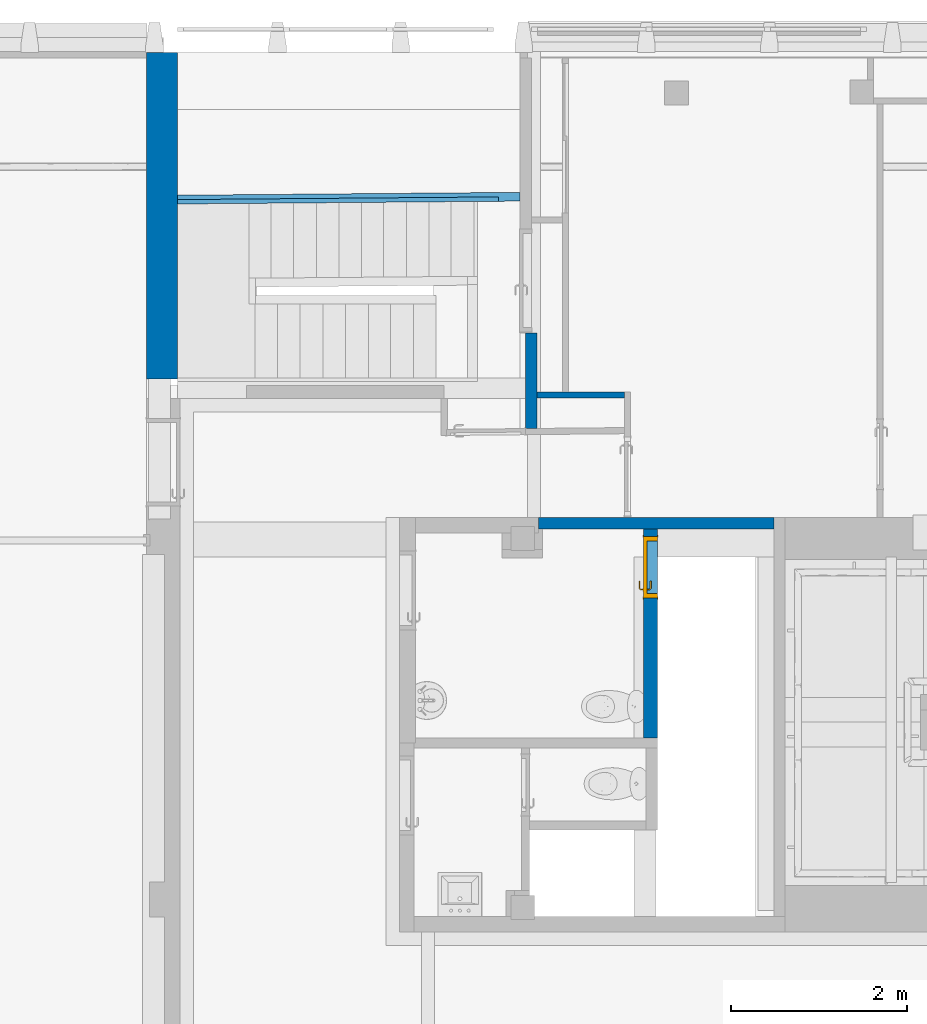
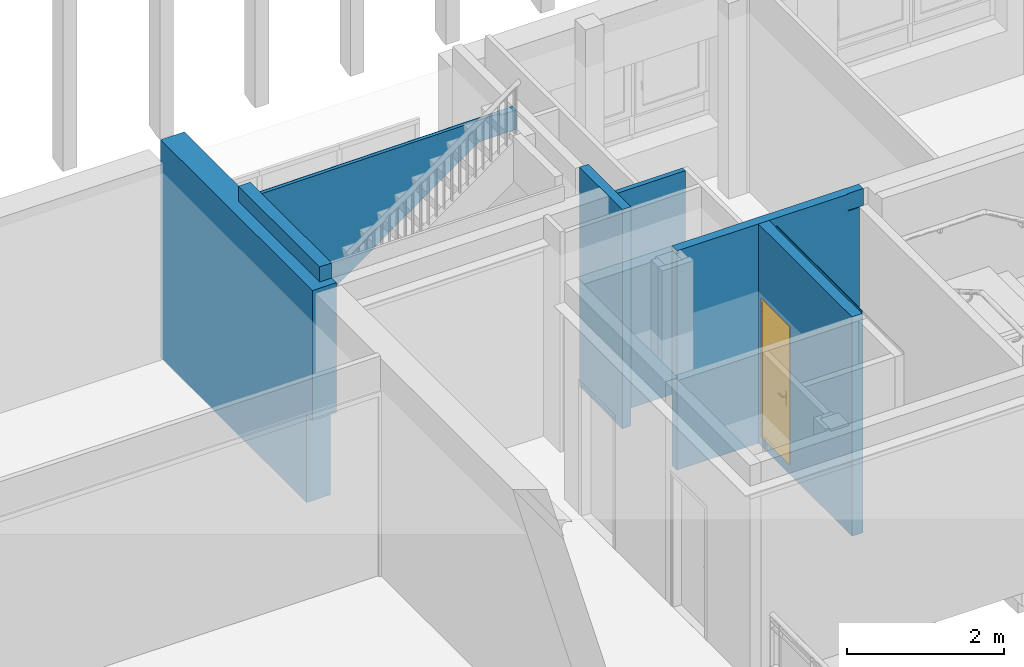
# One storey, part 40 of 65: 6 walls, 1 door, 1 opening.
"""IFC4 building model written with IfcOpenShell, lengths in metres."""

from ifc_helpers import new_model, entity, si_unit, converted_unit, derived_unit, direction, frame, origin, place, context, subcontext, project, spatial, indexed_curve, outline, extrude, polygons, source, transform, mapped, material, material_list, layer, layer_set, constituent, constituent_set, type_object, type_shapes, element, fill, save


model = new_model("IFC4")

# Units and contexts
model_context = context("Model", 3, precision=1e-05, world=origin(), true_north=direction((6.12303176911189e-17, 1.0)))
body_context = subcontext(model_context, "Body", "Model", "MODEL_VIEW")
ifc_project = project(units=[si_unit("LENGTHUNIT", "METRE"), si_unit("AREAUNIT", "SQUARE_METRE"), si_unit("VOLUMEUNIT", "CUBIC_METRE"), converted_unit("PLANEANGLEUNIT", "DEGREE", entity("IfcRatioMeasure", 0.0174532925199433), si_unit("PLANEANGLEUNIT", "RADIAN"), dimensions=[0, 0, 0, 0, 0, 0, 0]), si_unit("MASSUNIT", "GRAM", prefix="KILO"), derived_unit("MASSDENSITYUNIT", [(si_unit("MASSUNIT", "GRAM", prefix="KILO"), 1), (si_unit("LENGTHUNIT", "METRE"), -3)]), derived_unit("MOMENTOFINERTIAUNIT", [(si_unit("LENGTHUNIT", "METRE"), 4)]), si_unit("TIMEUNIT", "SECOND"), si_unit("FREQUENCYUNIT", "HERTZ"), si_unit("THERMODYNAMICTEMPERATUREUNIT", "DEGREE_CELSIUS"), derived_unit("THERMALTRANSMITTANCEUNIT", [(si_unit("MASSUNIT", "GRAM", prefix="KILO"), 1), (si_unit("THERMODYNAMICTEMPERATUREUNIT", "KELVIN"), -1), (si_unit("TIMEUNIT", "SECOND"), -3)]), derived_unit("VOLUMETRICFLOWRATEUNIT", [(si_unit("LENGTHUNIT", "METRE"), 3), (si_unit("TIMEUNIT", "SECOND"), -1)]), si_unit("ELECTRICCURRENTUNIT", "AMPERE"), si_unit("ELECTRICVOLTAGEUNIT", "VOLT"), si_unit("POWERUNIT", "WATT"), si_unit("FORCEUNIT", "NEWTON", prefix="KILO"), si_unit("ILLUMINANCEUNIT", "LUX"), si_unit("LUMINOUSFLUXUNIT", "LUMEN"), si_unit("LUMINOUSINTENSITYUNIT", "CANDELA"), derived_unit("USERDEFINED", [(si_unit("MASSUNIT", "GRAM", prefix="KILO"), -1), (si_unit("LENGTHUNIT", "METRE"), -2), (si_unit("TIMEUNIT", "SECOND"), 3), (si_unit("LUMINOUSFLUXUNIT", "LUMEN"), 1)]), derived_unit("LINEARVELOCITYUNIT", [(si_unit("LENGTHUNIT", "METRE"), 1), (si_unit("TIMEUNIT", "SECOND"), -1)]), si_unit("PRESSUREUNIT", "PASCAL"), derived_unit("USERDEFINED", [(si_unit("LENGTHUNIT", "METRE"), -2), (si_unit("MASSUNIT", "GRAM", prefix="KILO"), 1), (si_unit("TIMEUNIT", "SECOND"), -2)]), derived_unit("LINEARFORCEUNIT", [(si_unit("MASSUNIT", "GRAM", prefix="KILO"), 1), (si_unit("LENGTHUNIT", "METRE"), 1), (si_unit("TIMEUNIT", "SECOND"), -2), (si_unit("LENGTHUNIT", "METRE"), -1)]), derived_unit("PLANARFORCEUNIT", [(si_unit("MASSUNIT", "GRAM", prefix="KILO"), 1), (si_unit("LENGTHUNIT", "METRE"), 1), (si_unit("TIMEUNIT", "SECOND"), -2), (si_unit("LENGTHUNIT", "METRE"), -2)])], contexts=[model_context])

# Site, building, storey
site_placement = place(None, origin())
site = spatial("IfcSite", under=ifc_project, at=site_placement, Name="Default", CompositionType="ELEMENT")
building_placement = place(site_placement, origin())
building = spatial("IfcBuilding", under=site, at=building_placement, Name="HOTEL CONSULAIRE BOULOGNE SUR MER", CompositionType="ELEMENT")
storey_placement = place(building_placement, origin())
storey = spatial("IfcBuildingStorey", under=building, at=storey_placement, Name="Niveau 0", CompositionType="ELEMENT", Elevation=1.31981936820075e-13)

# Walls
ifc_material_1 = material(Name="Mur par défaut", Category="Divers")
ifc_layer_1 = layer(ifc_material_1, 0.35, Name="Mur par défaut", Category="Divers")
ifc_layer_set_1 = layer_set([ifc_layer_1], Name="Mur de base:Générique - Int.350")
wall_type_1 = type_object("IfcWallType", Name="Mur de base:Générique - Int.350", PredefinedType="NOTDEFINED", material=ifc_layer_set_1)
wall_1_placement = place(storey_placement, frame((-5.3347731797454, -13.9487034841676, 0.0), z_axis=(0.0, 0.0, 1.0), x_axis=(0.0, 1.0, 0.0)))
element("IfcWall", 1, at=wall_1_placement, inside=storey, type_object=wall_type_1, material=ifc_layer_set_1, Name="Mur de base:Générique - Int.350", ObjectType="Mur de base:Générique - Int.350", PredefinedType="NOTDEFINED", context=body_context, shape_type="Tessellation", body=[
    polygons([(0.150370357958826, -0.175, 4.03399441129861e-24), (3.86407113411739, -0.174999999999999, 0.0), (3.86407113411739, -0.174999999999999, 3.3865269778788), (2.2391893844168, -0.175, 3.3865269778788), (2.18918760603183, -0.175, 3.3865269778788), (2.18918760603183, -0.175, 3.42152697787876), (2.18918760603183, -0.175, 3.62152697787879), (0.157789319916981, -0.175, 3.62152697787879), (0.117789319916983, -0.175, 3.62152697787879), (0.117789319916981, -0.175, 3.3865269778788), (0.0, -0.174999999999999, 3.3865269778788), (0.0, -0.174999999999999, 1.36968714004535), (0.150370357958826, -0.175, 1.36968714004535), (3.86407113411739, 0.175, -4.03399441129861e-24), (0.150370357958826, 0.175, 4.03399441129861e-24), (0.150370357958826, 0.175, 1.36968714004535), (0.0, 0.175000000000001, 1.36968714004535), (0.0, 0.175000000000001, 3.3865269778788), (3.86407113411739, 0.175, 3.3865269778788), (2.18771161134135, 1.78301711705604e-15, 3.62152697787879), (0.117789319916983, -1.52425993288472e-15, 3.62152697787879), (0.117789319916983, -1.52425993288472e-15, 3.3865269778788), (2.18771161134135, 1.78301711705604e-15, 3.3865269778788)], [[[13, 1, 2, 3, 4, 5, 6, 7, 8, 9, 10, 11, 12]], [[19, 14, 15, 16, 17, 18]], [[21, 20, 23, 22]], [[2, 1, 15, 14]], [[12, 17, 16, 13]], [[3, 2, 14, 19]], [[8, 7, 20, 21, 9]], [[19, 18, 11, 10, 22, 23, 5, 4, 3]], [[12, 11, 18, 17]], [[16, 15, 1, 13]], [[9, 21, 22, 10]], [[6, 5, 23, 20, 7]]], closed=True),
])
ifc_layer_2 = layer(ifc_material_1, 0.07, Name="Mur par défaut", Category="Divers")
ifc_layer_set_2 = layer_set([ifc_layer_2], Name="Mur de base:Int. Plâtre 70 mm")
wall_type_2 = type_object("IfcWallType", Name="Mur de base:Int. Plâtre 70 mm", PredefinedType="NOTDEFINED", material=ifc_layer_set_2)
wall_2_placement = place(storey_placement, frame((-0.0706241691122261, -13.9828473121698, -0.0200000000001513), z_axis=(0.0, 0.0, 1.0), x_axis=(-1.0, 0.0, 0.0)))
element("IfcWall", 2, at=wall_2_placement, inside=storey, type_object=wall_type_2, material=ifc_layer_set_2, Name="Mur de base:Int. Plâtre 70 mm", ObjectType="Mur de base:Int. Plâtre 70 mm", PredefinedType="NOTDEFINED", context=body_context, shape_type="Tessellation", body=[
    polygons([(1.08691586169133e-16, -0.0349999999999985, -2.15727435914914e-16), (0.638191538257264, -0.0349999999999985, -2.15727435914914e-16), (0.708191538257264, -0.0349999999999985, -2.15727435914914e-16), (0.997799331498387, -0.0349999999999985, -2.15727435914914e-16), (0.997799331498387, -0.0349999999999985, 3.40652697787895), (0.708191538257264, -0.0349999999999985, 3.40652697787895), (0.638191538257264, -0.0349999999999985, 3.40652697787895), (6.63920889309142e-17, -0.0349999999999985, 3.40652697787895), (0.997799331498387, 0.0350000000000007, -2.15727435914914e-16), (-5.40690349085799e-18, 0.0350000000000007, -2.15727435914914e-16), (1.15128954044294e-17, 0.0350000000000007, 3.40652697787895), (0.997799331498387, 0.0350000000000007, 3.40652697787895)], [[[1, 2, 3, 4, 5, 6, 7, 8]], [[12, 9, 10, 11]], [[4, 3, 2, 1, 10, 9]], [[10, 1, 8, 11]], [[4, 9, 12, 5]], [[12, 11, 8, 7, 6, 5]]], closed=True),
])
ifc_layer_3 = layer(ifc_material_1, 0.13, Name="Mur par défaut", Category="Divers")
ifc_layer_set_3 = layer_set([ifc_layer_3], Name="Mur de base:Int. Plâtre 130 mm")
wall_type_3 = type_object("IfcWallType", Name="Mur de base:Int. Plâtre 130 mm", PredefinedType="NOTDEFINED", material=ifc_layer_set_3)
wall_3_placement = place(storey_placement, frame((-1.13342350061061, -14.3645578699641, -0.0200000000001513), z_axis=(0.0, 0.0, 1.0), x_axis=(0.0, 1.0, 0.0)))
element("IfcWall", 3, at=wall_3_placement, inside=storey, type_object=wall_type_3, material=ifc_layer_set_3, Name="Mur de base:Int. Plâtre 130 mm", ObjectType="Mur de base:Int. Plâtre 130 mm", PredefinedType="NOTDEFINED", context=body_context, shape_type="Tessellation", body=[
    polygons([(0.00130476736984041, -0.0649999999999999, -2.15727435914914e-16), (0.346710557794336, -0.065, -2.15727435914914e-16), (0.416710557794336, -0.0649999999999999, -2.15727435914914e-16), (1.08798996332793, -0.0649999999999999, -2.15727435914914e-16), (1.08798996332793, -0.0649999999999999, 3.40652697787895), (0.416710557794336, -0.0649999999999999, 3.40652697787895), (0.346710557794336, -0.065, 3.40652697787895), (0.00130476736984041, -0.0649999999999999, 3.40652697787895), (1.08798996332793, 0.0650000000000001, -2.15727435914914e-16), (0.0, 0.065, -2.15727435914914e-16), (0.0, 0.065, 3.40652697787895), (0.343643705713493, 0.065, 3.40652697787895), (0.573643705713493, 0.065, 3.40652697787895), (1.08798996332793, 0.0650000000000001, 3.40652697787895), (1.08798996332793, -0.00399999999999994, -2.15727435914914e-16), (1.08798996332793, -0.00399999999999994, 3.40652697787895)], [[[1, 2, 3, 4, 5, 6, 7, 8]], [[14, 9, 10, 11, 12, 13]], [[2, 1, 10, 9, 15, 4, 3]], [[16, 5, 4, 15, 9, 14]], [[10, 1, 8, 11]], [[13, 12, 11, 8, 7, 6, 5, 16, 14]]], closed=True),
])

# Wall, opening, door
ifc_layer_4 = layer(ifc_material_1, 0.16, Name="Mur par défaut", Category="Divers")
ifc_layer_set_4 = layer_set([ifc_layer_4], Name="Mur de base:Générique - Int.160")
wall_type_4 = type_object("IfcWallType", Name="Mur de base:Générique - Int.160", PredefinedType="NOTDEFINED", material=ifc_layer_set_4)
wall_4_placement = place(storey_placement, frame((0.222268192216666, -17.8875602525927, -0.0200000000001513), z_axis=(0.0, 0.0, 1.0), x_axis=(0.0, 1.0, 0.0)))
wall_4 = element("IfcWall", 4, at=wall_4_placement, inside=storey, type_object=wall_type_4, material=ifc_layer_set_4, Name="Mur de base:Générique - Int.160", ObjectType="Mur de base:Générique - Int.160", PredefinedType="NOTDEFINED", context=body_context, shape_type="Tessellation", body=[
    polygons([(0.0, -0.08, -2.15727435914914e-16), (2.38231820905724, -0.0800000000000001, -2.15727435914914e-16), (2.38231820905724, -0.0800000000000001, 3.40652697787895), (2.18731820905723, -0.08, 3.40652697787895), (2.18731820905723, -0.08, 3.44152697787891), (0.0, -0.08, 3.44152697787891), (2.29531820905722, -0.0800000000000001, 2.28500000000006), (2.29531820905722, -0.0800000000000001, 0.150000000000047), (1.59531820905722, -0.08, 0.150000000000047), (1.59531820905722, -0.08, 2.28500000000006), (2.38231820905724, 0.08, -2.15727435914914e-16), (0.0, 0.08, -2.15727435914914e-16), (0.0, 0.08, 3.40652697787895), (2.38231820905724, 0.08, 3.40652697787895), (2.29531820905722, 0.08, 0.150000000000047), (2.29531820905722, 0.08, 2.28500000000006), (1.59531820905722, 0.08, 2.28500000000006), (1.59531820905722, 0.08, 0.150000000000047), (2.18731820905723, -0.0693668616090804, 3.44152697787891), (0.0, -0.0693668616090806, 3.44152697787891), (0.0, -0.0693668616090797, 3.40652697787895), (2.18731820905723, -0.0693668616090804, 3.40652697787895)], [[[1, 2, 3, 4, 5, 6], [10, 7, 8, 9]], [[11, 12, 13, 14], [16, 17, 18, 15]], [[19, 22, 21, 20]], [[2, 1, 12, 11]], [[17, 16, 7, 10]], [[6, 5, 19, 20]], [[15, 18, 9, 8]], [[3, 14, 13, 21, 22, 4]], [[3, 2, 11, 14]], [[18, 17, 10, 9]], [[5, 4, 22, 19]], [[21, 13, 12, 1, 6, 20]], [[16, 15, 8, 7]]], closed=True),
])
opening_placement = place(wall_4_placement, frame((1.59531820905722, -0.0799999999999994, 0.150000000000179)))
opening = element("IfcOpeningElement", 5, at=opening_placement, cuts=wall_4, Name="Int. Simple:PP (0.63m x 2.10m):1", ObjectType="Opening", PredefinedType="OPENING", context=body_context, shape_type="SweptSolid", body=[
    extrude(outline(indexed_curve([(0.0, 0.699999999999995), (0.0, 0.0), (2.13500000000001, 0.0), (2.13500000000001, 0.699999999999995), (0.0, 0.699999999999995)], self_intersect=False)), frame((0.0, 0.0, 0.0), z_axis=(0.0, 1.0, 0.0), x_axis=(0.0, 0.0, 1.0)), (0.0, 0.0, 1.0), 0.16),
])
ifc_material_2 = material(Name="Finition Peinture - Blanc satiné", Category="Peinture")
ifc_constituent_1 = constituent(ifc_material_2, Name="Finition Peinture - Blanc satiné", Category="Matériaux")
ifc_material_3 = material(Name="Bois - Panneau de porte", Category="Bois")
ifc_constituent_2 = constituent(ifc_material_3, Name="Bois - Panneau de porte", Category="Matériaux")
ifc_material_4 = material(Name="Bois - Cadre de porte", Category="Bois")
ifc_constituent_3 = constituent(ifc_material_4, Name="Bois - Cadre de porte", Category="Matériaux")
ifc_constituent_set = constituent_set(constituents=[ifc_constituent_1, ifc_constituent_2, ifc_constituent_3], Name="MaterialConstituentSet")
ifc_material_list = material_list([ifc_material_3, ifc_material_2, ifc_material_4, ifc_material_4])
door_type = type_object("IfcDoorType", Name="Int. Simple:PP (0.63m x 2.10m)", OperationType="NOTDEFINED", PredefinedType="DOOR", material=ifc_material_list)
shared_shape = source(origin(), body_context, "Body", "Tessellation", [
    polygons([(0.695000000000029, -0.00500000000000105, 0.870000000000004), (0.695000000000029, -0.00500000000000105, 1.08), (0.68535276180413, -0.00500000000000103, 1.08399601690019), (0.675000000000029, -0.00500000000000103, 1.08535898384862), (0.664647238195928, -0.00500000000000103, 1.08399601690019), (0.65500000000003, -0.00500000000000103, 1.08), (0.655000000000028, -0.00500000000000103, 0.870000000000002), (0.664647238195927, -0.00500000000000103, 0.866003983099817), (0.675000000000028, -0.00500000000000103, 0.86464101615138), (0.685352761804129, -0.00500000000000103, 0.866003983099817), (0.695000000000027, -1.06594733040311e-15, 0.870000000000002), (0.685352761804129, -1.04902753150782e-15, 0.866003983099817), (0.675000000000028, -1.04902753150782e-15, 0.86464101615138), (0.664647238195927, -1.04902753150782e-15, 0.866003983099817), (0.655000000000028, -1.04902753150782e-15, 0.870000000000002), (0.655000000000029, -1.04902753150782e-15, 1.08), (0.664647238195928, -1.04902753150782e-15, 1.08399601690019), (0.675000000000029, -1.04902753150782e-15, 1.08535898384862), (0.68535276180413, -1.04902753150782e-15, 1.08399601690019), (0.695000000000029, -1.06594733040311e-15, 1.08)], [[[1, 2, 3, 4, 5, 6, 7, 8, 9, 10]], [[20, 11, 12, 13, 14, 15, 16, 17, 18, 19]], [[10, 12, 11, 1]], [[9, 13, 12, 10]], [[8, 14, 13, 9]], [[8, 7, 15, 14]], [[15, 7, 6, 16]], [[5, 17, 16, 6]], [[4, 18, 17, 5]], [[3, 19, 18, 4]], [[3, 2, 20, 19]], [[11, 20, 2, 1]]], closed=True),
    polygons([(0.65500000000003, 0.0399999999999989, 1.08), (0.655000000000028, 0.0399999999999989, 0.870000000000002), (0.664647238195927, 0.0399999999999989, 0.866003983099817), (0.675000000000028, 0.0399999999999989, 0.86464101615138), (0.685352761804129, 0.0399999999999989, 0.866003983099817), (0.695000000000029, 0.0399999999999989, 0.870000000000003), (0.695000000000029, 0.0399999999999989, 1.08), (0.68535276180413, 0.0399999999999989, 1.08399601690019), (0.675000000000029, 0.0399999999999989, 1.08535898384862), (0.664647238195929, 0.0399999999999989, 1.08399601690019), (0.65500000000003, 0.044999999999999, 1.08), (0.664647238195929, 0.0449999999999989, 1.08399601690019), (0.675000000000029, 0.0449999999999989, 1.08535898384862), (0.68535276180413, 0.0449999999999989, 1.08399601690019), (0.695000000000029, 0.0449999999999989, 1.08), (0.695000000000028, 0.0449999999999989, 0.870000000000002), (0.685352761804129, 0.0449999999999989, 0.866003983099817), (0.675000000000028, 0.0449999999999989, 0.86464101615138), (0.664647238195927, 0.0449999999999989, 0.866003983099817), (0.655000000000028, 0.044999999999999, 0.870000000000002)], [[[6, 7, 8, 9, 10, 1, 2, 3, 4, 5]], [[13, 14, 15, 16, 17, 18, 19, 20, 11, 12]], [[10, 12, 11, 1]], [[9, 13, 12, 10]], [[8, 14, 13, 9]], [[8, 7, 15, 14]], [[16, 15, 7, 6]], [[5, 17, 16, 6]], [[4, 18, 17, 5]], [[3, 19, 18, 4]], [[3, 2, 20, 19]], [[20, 2, 1, 11]]], closed=True),
    polygons([(0.681000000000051, -0.00500000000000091, 1.00699999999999), (0.68100000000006, -0.00500000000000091, 0.992999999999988), (0.677025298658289, -0.00500000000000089, 0.99221955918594), (0.67297470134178, -0.00500000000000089, 0.992219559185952), (0.669000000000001, -0.00500000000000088, 0.993000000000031), (0.669000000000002, -0.00500000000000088, 1.007), (0.672974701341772, -0.00500000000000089, 1.00778044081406), (0.677025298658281, -0.00500000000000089, 1.00778044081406), (0.669000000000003, -0.0276803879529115, 1.007), (0.672974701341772, -0.0293267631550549, 1.00778044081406), (0.677025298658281, -0.0310045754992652, 1.00778044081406), (0.681000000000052, -0.0326509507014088, 1.007), (0.669000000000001, -0.0276803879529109, 0.993000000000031), (0.68100000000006, -0.0326509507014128, 0.992999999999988), (0.677025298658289, -0.0310045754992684, 0.99221955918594), (0.67297470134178, -0.0293267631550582, 0.992219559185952), (0.657652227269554, -0.0390281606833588, 1.007), (0.659298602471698, -0.0430028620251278, 1.00778044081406), (0.660976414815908, -0.0470534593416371, 1.00778044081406), (0.662622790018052, -0.051028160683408, 1.007), (0.657652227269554, -0.0390281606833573, 0.993000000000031), (0.662622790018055, -0.0510281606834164, 0.992999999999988), (0.660976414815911, -0.0470534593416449, 0.99221955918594), (0.659298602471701, -0.0430028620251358, 0.992219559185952), (0.574981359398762, -0.0510281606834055, 1.007), (0.574981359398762, -0.0470534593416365, 1.00778044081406), (0.574981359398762, -0.0430028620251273, 1.00778044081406), (0.574981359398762, -0.0390281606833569, 1.00699999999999), (0.574981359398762, -0.0390281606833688, 0.993000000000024), (0.574981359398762, -0.0430028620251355, 0.992219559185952), (0.574981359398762, -0.0470534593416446, 0.99221955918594), (0.574981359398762, -0.0510281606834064, 0.992999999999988), (0.622692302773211, -0.051028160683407, 1.007), (0.617139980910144, -0.045028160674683, 1.0078786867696), (0.616316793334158, -0.0390281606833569, 1.007), (0.622692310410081, -0.0510281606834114, 0.992999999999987), (0.617139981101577, -0.0450281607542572, 0.992121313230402), (0.61631679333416, -0.0390281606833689, 0.993000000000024)], [[[7, 8, 1, 2, 3, 4, 5, 6]], [[17, 21, 38, 29, 28, 35]], [[1, 8, 11, 12]], [[8, 7, 10, 18, 19, 11]], [[7, 6, 9, 10]], [[13, 9, 6, 5]], [[25, 26, 27, 28, 29, 30, 31, 32]], [[4, 16, 13, 5]], [[4, 3, 15, 23, 24, 16]], [[2, 14, 15, 3]], [[12, 14, 2, 1]], [[12, 11, 19, 20]], [[10, 9, 17, 18]], [[21, 17, 9, 13]], [[13, 16, 24, 21]], [[15, 14, 22, 23]], [[20, 22, 14, 12]], [[34, 26, 33]], [[33, 26, 25]], [[33, 20, 19]], [[18, 35, 34]], [[35, 18, 17]], [[28, 27, 35]], [[34, 27, 26]], [[34, 35, 27]], [[34, 33, 19]], [[18, 34, 19]], [[37, 30, 38]], [[31, 37, 36]], [[24, 38, 21]], [[30, 29, 38]], [[31, 36, 32]], [[36, 23, 22]], [[37, 23, 36]], [[37, 24, 23]], [[37, 38, 24]], [[30, 37, 31]], [[22, 20, 33, 25, 32, 36]]], closed=True),
    polygons([(0.66900000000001, 0.0449999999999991, 0.993000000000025), (0.672974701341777, 0.0449999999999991, 0.992219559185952), (0.677025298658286, 0.0449999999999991, 0.99221955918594), (0.681000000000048, 0.0449999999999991, 0.992999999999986), (0.681000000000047, 0.0449999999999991, 1.007), (0.677025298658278, 0.0449999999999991, 1.00778044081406), (0.672974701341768, 0.0449999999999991, 1.00778044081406), (0.668999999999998, 0.0449999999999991, 1.007), (0.668999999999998, 0.067485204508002, 1.007), (0.668999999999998, 0.0674852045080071, 0.993000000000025), (0.681000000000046, 0.0724557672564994, 1.007), (0.677025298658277, 0.070809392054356, 1.00778044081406), (0.672974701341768, 0.0691315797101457, 1.00778044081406), (0.681000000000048, 0.0724557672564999, 0.992999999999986), (0.672974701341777, 0.0691315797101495, 0.992219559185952), (0.677025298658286, 0.0708093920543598, 0.99221955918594), (0.65751471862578, 0.0789704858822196, 1.007), (0.657514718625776, 0.0789704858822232, 0.993000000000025), (0.662485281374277, 0.0909704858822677, 1.007), (0.660838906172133, 0.0869957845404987, 1.00778044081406), (0.659161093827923, 0.0829451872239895, 1.00778044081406), (0.662485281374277, 0.0909704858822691, 0.992999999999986), (0.659161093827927, 0.0829451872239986, 0.992219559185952), (0.660838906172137, 0.0869957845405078, 0.99221955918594), (0.574954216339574, 0.0789704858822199, 0.993000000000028), (0.574954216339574, 0.0789704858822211, 1.007), (0.574954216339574, 0.0829451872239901, 1.00778044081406), (0.574954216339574, 0.0869957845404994, 1.00778044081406), (0.574954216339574, 0.0909704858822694, 1.007), (0.574954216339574, 0.0909704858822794, 0.992999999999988), (0.574954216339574, 0.086995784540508, 0.99221955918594), (0.574954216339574, 0.0829451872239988, 0.992219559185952), (0.62255479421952, 0.0909704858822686, 1.007), (0.617057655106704, 0.0849704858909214, 1.0078786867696), (0.616234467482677, 0.0789704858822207, 1.007), (0.622554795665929, 0.0909704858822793, 0.992999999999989), (0.617057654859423, 0.0849704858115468, 0.992121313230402), (0.616234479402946, 0.0789704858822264, 0.993000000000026)], [[[2, 3, 4, 5, 6, 7, 8, 1]], [[18, 17, 35, 26, 25, 38]], [[9, 10, 1, 8]], [[27, 28, 29, 30, 31, 32, 25, 26]], [[7, 13, 9, 8]], [[7, 6, 12, 20, 21, 13]], [[5, 11, 12, 6]], [[11, 5, 4, 14]], [[4, 3, 16, 14]], [[3, 2, 15, 23, 24, 16]], [[2, 1, 10, 15]], [[17, 18, 10, 9]], [[9, 13, 21, 17]], [[11, 19, 20, 12]], [[22, 19, 11, 14]], [[14, 16, 24, 22]], [[15, 10, 18, 23]], [[34, 27, 35]], [[28, 34, 33]], [[21, 35, 17]], [[27, 26, 35]], [[28, 33, 29]], [[33, 20, 19]], [[34, 20, 33]], [[34, 21, 20]], [[34, 35, 21]], [[27, 34, 28]], [[19, 22, 36, 30, 29, 33]], [[37, 31, 36]], [[36, 31, 30]], [[36, 22, 24]], [[23, 38, 37]], [[38, 23, 18]], [[25, 32, 38]], [[37, 32, 31]], [[37, 38, 32]], [[37, 36, 24]], [[23, 37, 24]]], closed=True),
    polygons([(0.735000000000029, 0.0400000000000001, 2.1), (0.735000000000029, 0.0400000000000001, 0.0), (0.105000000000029, 0.0400000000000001, 0.0), (0.105000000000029, 0.0400000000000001, 2.1), (0.735000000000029, 8.45989944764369e-17, 2.1), (0.105000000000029, 8.45989944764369e-17, 2.1), (0.105000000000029, 8.45989944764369e-17, 0.0), (0.735000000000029, 8.45989944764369e-17, 0.0)], [[[4, 1, 2, 3]], [[5, 6, 7, 8]], [[5, 1, 4, 6]], [[6, 4, 3, 7]], [[7, 3, 2, 8]], [[8, 2, 1, 5]]], closed=True),
    polygons([(0.770000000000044, 1.69197988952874e-17, 0.0), (0.735000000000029, 1.69197988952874e-17, 0.0), (0.735000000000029, 0.0400000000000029, 0.0), (0.720000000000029, 0.0400000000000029, 0.0), (0.720000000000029, 0.160000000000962, 0.0), (0.770000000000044, 0.160000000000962, 0.0), (0.770000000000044, 0.160000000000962, 2.13500000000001), (0.770000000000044, 1.69197988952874e-17, 2.13500000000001), (0.720000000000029, 0.160000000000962, 2.085), (0.120000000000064, 0.160000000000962, 2.085), (0.120000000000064, 0.160000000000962, 4.03399441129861e-24), (0.0700000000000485, 0.160000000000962, 4.03399441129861e-24), (0.0700000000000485, 0.160000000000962, 2.13500000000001), (0.720000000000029, 0.0400000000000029, 2.085), (0.735000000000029, 0.0400000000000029, 2.1), (0.105000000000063, 0.0400000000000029, 2.1), (0.105000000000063, 0.0400000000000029, -4.03399441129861e-24), (0.120000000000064, 0.0400000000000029, 8.06798882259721e-24), (0.120000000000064, 0.0400000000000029, 2.085), (0.735000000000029, 1.69197988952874e-17, 2.1), (0.0700000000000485, 1.69197988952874e-17, 2.13500000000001), (0.0700000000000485, 1.69197988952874e-17, -3.76506206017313e-24), (0.105000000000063, 1.69197988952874e-17, -8.06799968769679e-25), (0.105000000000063, 1.69197988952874e-17, 2.1)], [[[5, 6, 1, 2, 3, 4]], [[17, 23, 22, 12, 11, 18]], [[19, 10, 9, 14]], [[16, 15, 20, 24]], [[7, 8, 1, 6]], [[11, 10, 19, 18]], [[17, 16, 24, 23]], [[9, 10, 11, 12, 13, 7, 6, 5]], [[14, 9, 5, 4]], [[15, 3, 2, 20]], [[12, 22, 21, 13]], [[19, 14, 4, 3, 15, 16, 17, 18]], [[24, 20, 2, 1, 8, 21, 22, 23]], [[13, 21, 8, 7]]], closed=True),
    polygons([(0.755000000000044, 0.160000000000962, 0.0), (0.755000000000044, 0.165000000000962, 0.0), (0.785000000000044, 0.165000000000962, 0.0), (0.785000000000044, 0.160000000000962, 0.0), (0.785000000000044, 0.160000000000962, 2.15000000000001), (0.0550000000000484, 0.160000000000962, 2.15000000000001), (0.0550000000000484, 0.160000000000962, -4.87123881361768e-24), (0.0850000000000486, 0.160000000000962, 5.4801430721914e-24), (0.0850000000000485, 0.160000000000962, 2.12000000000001), (0.755000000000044, 0.160000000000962, 2.12000000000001), (0.785000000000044, 0.165000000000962, 2.15000000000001), (0.755000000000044, 0.165000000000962, 2.12000000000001), (0.0850000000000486, 0.165000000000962, 2.12000000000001), (0.0850000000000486, 0.165000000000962, -1.59483471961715e-24), (0.0550000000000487, 0.165000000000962, -4.37172388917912e-24), (0.0550000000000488, 0.165000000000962, 2.15000000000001)], [[[2, 3, 4, 1]], [[8, 7, 15, 14]], [[9, 13, 12, 10]], [[9, 10, 1, 4, 5, 6, 7, 8]], [[5, 4, 3, 11]], [[14, 13, 9, 8]], [[12, 13, 14, 15, 16, 11, 3, 2]], [[10, 12, 2, 1]], [[7, 6, 16, 15]], [[6, 5, 11, 16]]], closed=True),
    polygons([(0.0850000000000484, -0.00499999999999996, 6.76791955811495e-16), (0.0550000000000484, -0.00499999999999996, 6.76791955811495e-16), (0.0550000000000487, 1.69197988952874e-17, 6.76791955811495e-16), (0.0850000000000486, 1.69197988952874e-17, 6.76791955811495e-16), (0.755000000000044, -0.00499999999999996, 0.0), (0.755000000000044, 1.69197988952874e-17, 0.0), (0.785000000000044, 1.69197988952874e-17, 0.0), (0.785000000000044, -0.00499999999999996, 0.0), (0.785000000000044, -0.00499999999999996, 2.15000000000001), (0.0550000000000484, -0.00499999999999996, 2.15000000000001), (0.0850000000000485, -0.00499999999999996, 2.12000000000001), (0.755000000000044, -0.00499999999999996, 2.12000000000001), (0.785000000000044, 1.69197988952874e-17, 2.15000000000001), (0.755000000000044, 1.69197988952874e-17, 2.12000000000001), (0.0850000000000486, 1.69197988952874e-17, 2.12000000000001), (0.0550000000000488, 1.69197988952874e-17, 2.15000000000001)], [[[1, 2, 3, 4]], [[6, 7, 8, 5]], [[15, 14, 12, 11]], [[11, 12, 5, 8, 9, 10, 2, 1]], [[9, 8, 7, 13]], [[1, 4, 15, 11]], [[14, 15, 4, 3, 16, 13, 7, 6]], [[12, 14, 6, 5]], [[2, 10, 16, 3]], [[10, 9, 13, 16]]], closed=True),
])
type_shapes(door_type, [shared_shape])
door_placement = place(opening_placement, frame((0.770000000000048, 0.159999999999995, 0.0), z_axis=(0.0, 0.0, 1.0), x_axis=(-1.0, 0.0, 0.0)))
door = element("IfcDoor", 6, at=door_placement, inside=storey, type_object=door_type, material=ifc_constituent_set, Name="Int. Simple:PP (0.63m x 2.10m)", ObjectType="Int. Simple:PP (0.63m x 2.10m)", OperationType="NOTDEFINED", OverallHeight=2.13500000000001, OverallWidth=0.699999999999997, PredefinedType="DOOR", context=body_context, shape_type="MappedRepresentation", body=[
    mapped(shared_shape, transform((0.0, 0.0, 0.0), scale=1.0)),
])
fill(opening, door)

# Walls
ifc_layer_5 = layer(ifc_material_1, 0.1, Name="Mur par défaut", Category="Divers")
ifc_layer_set_5 = layer_set([ifc_layer_5], Name="Mur de base:Générique - Int. 100 mm")
wall_type_5 = type_object("IfcWallType", Name="Mur de base:Générique - Int. 100 mm", PredefinedType="NOTDEFINED", material=ifc_layer_set_5)
wall_5_placement = place(storey_placement, frame((-1.25900180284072, -11.7266157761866, 1.3700999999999), z_axis=(0.0, 0.0, 1.0), x_axis=(-0.999964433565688, -0.00843395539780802, 0.0)))
element("IfcWall", 7, at=wall_5_placement, inside=storey, type_object=wall_type_5, material=ifc_layer_set_5, Name="Mur de base:Générique - Int. 100 mm", ObjectType="Mur de base:Générique - Int. 100 mm", PredefinedType="NOTDEFINED", context=body_context, shape_type="Tessellation", body=[
    polygons([(2.97730263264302, -0.0499999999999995, 0.0), (3.90048840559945, -0.0500000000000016, 2.70716782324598e-16), (3.90048840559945, -0.0500000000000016, 2.0164269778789), (6.26032559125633e-16, -0.0499999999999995, 2.0164269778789), (6.26032559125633e-16, -0.0499999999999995, 1.71611794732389), (0.551023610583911, -0.0499999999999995, 1.71611794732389), (3.90133183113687, 0.0499999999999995, 2.70716782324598e-16), (2.97730263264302, 0.0499999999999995, 2.70716782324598e-16), (0.551023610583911, 0.0499999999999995, 1.71611794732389), (0.00084342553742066, 0.0499999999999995, 1.71611794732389), (0.00084342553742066, 0.0499999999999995, 2.0164269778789), (0.215268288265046, 0.0499999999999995, 2.0164269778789), (0.245269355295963, 0.0499999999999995, 2.0164269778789), (0.245269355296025, 0.0499999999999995, 2.05142697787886), (3.90133183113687, 0.0499999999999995, 2.05142697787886), (3.90091011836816, 0.0, 2.05142697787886), (3.90091011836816, 2.16573425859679e-15, 2.0164269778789), (0.244847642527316, 0.0, 2.05142697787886), (0.244847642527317, 0.0, 2.0164269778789)], [[[4, 5, 6, 1, 2, 3]], [[18, 19, 17, 16]], [[7, 8, 9, 10, 11, 12, 13, 14, 15]], [[17, 3, 2, 7, 15, 16]], [[10, 5, 4, 11]], [[18, 14, 13, 19]], [[2, 1, 8, 7]], [[6, 5, 10, 9]], [[18, 16, 15, 14]], [[3, 17, 19, 13, 12, 11, 4]], [[1, 6, 9, 8]]], closed=True),
])
ifc_layer_6 = layer(ifc_material_1, 0.13, Name="Mur par défaut", Category="Divers")
ifc_layer_set_6 = layer_set([ifc_layer_6], Name="Mur de base:Générique - Int. 130 mm")
wall_type_6 = type_object("IfcWallType", Name="Mur de base:Générique - Int. 130 mm", PredefinedType="NOTDEFINED", material=ifc_layer_set_6)
wall_6_placement = place(storey_placement, frame((1.69247131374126, -15.4402420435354, -0.0200000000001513), z_axis=(0.0, 0.0, 1.0), x_axis=(-1.0, 0.0, 0.0)))
element("IfcWall", 8, at=wall_6_placement, inside=storey, type_object=wall_type_6, material=ifc_layer_set_6, Name="Mur de base:Générique - Int. 130 mm", ObjectType="Mur de base:Générique - Int. 130 mm", PredefinedType="NOTDEFINED", context=body_context, shape_type="Tessellation", body=[
    polygons([(0.0650000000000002, -0.0650000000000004, -2.15727435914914e-16), (1.69309548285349, -0.0650000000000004, -2.15727435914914e-16), (1.76309548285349, -0.0650000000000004, -2.15727435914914e-16), (2.74507750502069, -0.0650000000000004, -2.15727435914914e-16), (2.74507750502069, -0.0650000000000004, 3.40652697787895), (1.76309548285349, -0.0650000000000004, 3.40652697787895), (1.69309548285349, -0.0650000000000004, 3.40652697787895), (-1.75943085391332e-16, -0.0650000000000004, 3.40652697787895), (9.4773696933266e-17, -0.0650000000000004, 3.14470529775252), (0.0650000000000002, -0.0650000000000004, 3.14470529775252), (2.74507750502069, 0.0650000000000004, -2.15727435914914e-16), (2.69507750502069, 0.0650000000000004, -2.15727435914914e-16), (1.55020312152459, 0.0650000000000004, -2.15727435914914e-16), (1.39020312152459, 0.0650000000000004, -2.15727435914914e-16), (0.0649999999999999, 0.0650000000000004, -2.15727435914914e-16), (0.0650000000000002, 0.0650000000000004, 3.14470529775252), (0.235, 0.0650000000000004, 3.14470529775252), (0.235, 0.0650000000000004, 3.40652697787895), (1.39020312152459, 0.0650000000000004, 3.40652697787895), (1.55020312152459, 0.0650000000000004, 3.40652697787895), (2.74507750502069, 0.0650000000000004, 3.40652697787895), (1.05237177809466e-16, 0.0526361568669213, 3.14470529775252), (1.05237177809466e-16, 0.0526361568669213, 3.40652697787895), (0.0650000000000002, 0.0526361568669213, 3.14470529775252), (0.235, 0.0526361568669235, 3.14470529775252), (0.235, 0.0526361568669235, 3.40652697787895)], [[[1, 2, 3, 4, 5, 6, 7, 8, 9, 10]], [[11, 12, 13, 14, 15, 16, 17, 18, 19, 20, 21]], [[24, 22, 23, 26, 25]], [[2, 1, 15, 14, 13, 12, 11, 4, 3]], [[22, 24, 10, 9]], [[5, 4, 11, 21]], [[9, 8, 23, 22]], [[24, 16, 15, 1, 10]], [[17, 25, 26, 18]], [[16, 24, 25, 17]], [[19, 18, 26, 23, 8, 7, 6, 5, 21, 20]]], closed=True),
])

save(model, "model.ifc")
